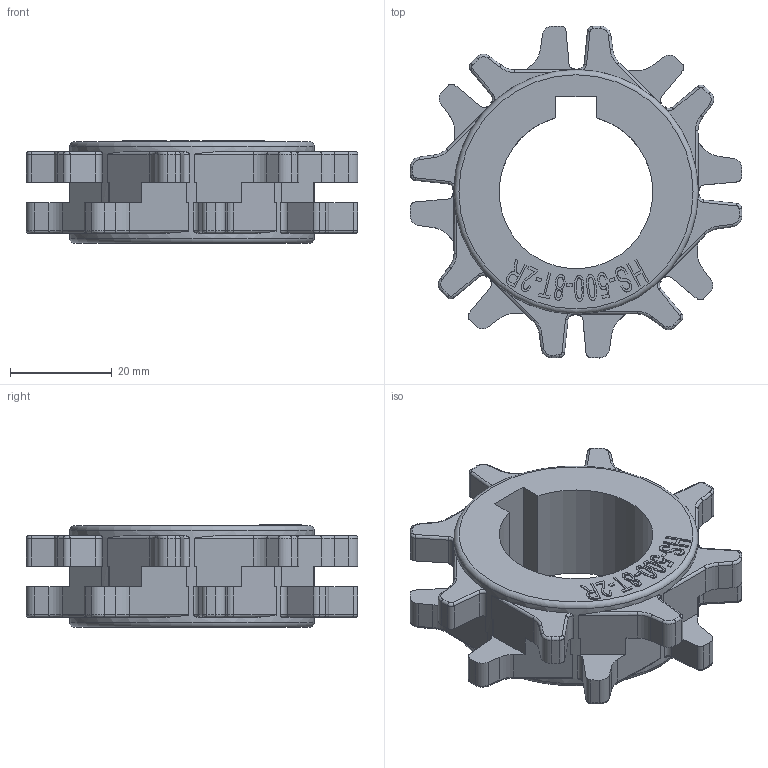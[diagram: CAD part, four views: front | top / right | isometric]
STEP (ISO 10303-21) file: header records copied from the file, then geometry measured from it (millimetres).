
FILE_DESCRIPTION(/* description */ (''),/* implementation_level */ '2;1');
FILE_NAME(/* name */ 'HS-500-8T-2R.stp',/* time_stamp */ '2023-06-15T07:59:08+08:00',/* author */ (''),/* organization */ (''),/* preprocessor_version */ 'ST-DEVELOPER v15',/* originating_system */ 'SIEMENS PLM Software NX 8.5',/* authorisation */ '');
FILE_SCHEMA (('AP203_CONFIGURATION_CONTROLLED_3D_DESIGN_OF_MECHANICAL_PARTS_AND_ASSEMBLIES_MIM_LF { 1 0 10303 403 2 1 2}'));
Length unit declared in the file: millimetre
Products named in the file (1): Admi255CBAC47voy
Bounding box: 65.21 x 65.21 x 20.2 mm (x, y, z)
Volume: 27293.9 mm3; surface area: 10183.4 mm2
Topology: 1 solids, 1 shells, 443 faces, 1134 edges, 718 vertices
Faces by surface type: plane 200, cylinder 130, torus 82, extrusion 31
Full cylindrical faces by diameter (mm): 48 x1
Entity records: 14988 total; most frequent: CARTESIAN_POINT 4276, ORIENTED_EDGE 2262, DIRECTION 2152, EDGE_CURVE 1131, AXIS2_PLACEMENT_3D 803, VERTEX_POINT 718, VECTOR 546, LINE 515
